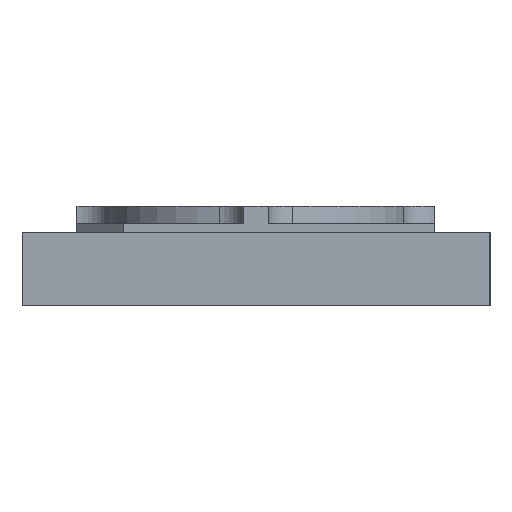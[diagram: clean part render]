
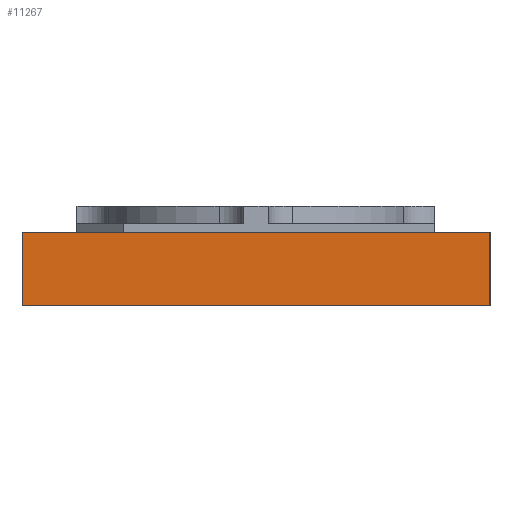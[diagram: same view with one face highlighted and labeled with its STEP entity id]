
A CAD part, front view. The second image highlights one B-rep face of the part: STEP entity #11267.
In plain terms, the highlighted planar face has unit normal (0, -1, 0) as drawn and (-1, 0, 0) by its records, which use the part's own axes.
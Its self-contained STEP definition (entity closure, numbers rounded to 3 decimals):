
#878 = ORIENTED_EDGE ( 'NONE', *, *, #4872, .T. ) ;
#3023 = VECTOR ( 'NONE', #18999, 1000. ) ;
#3314 = CARTESIAN_POINT ( 'NONE',  ( 25.814, 45.814, 0. ) ) ;
#3641 = LINE ( 'NONE', #12277, #10733 ) ;
#4408 = CARTESIAN_POINT ( 'NONE',  ( 25.814, 45.814, -3.125 ) ) ;
#4872 = EDGE_CURVE ( 'NONE', #15469, #6658, #17351, .T. ) ;
#5885 = CARTESIAN_POINT ( 'NONE',  ( 25.814, 0., -3.125 ) ) ;
#6114 = CARTESIAN_POINT ( 'NONE',  ( 25.814, 25.82, -3.125 ) ) ;
#6418 = EDGE_CURVE ( 'NONE', #15469, #9775, #3641, .T. ) ;
#6658 = VERTEX_POINT ( 'NONE', #9210 ) ;
#6839 = AXIS2_PLACEMENT_3D ( 'NONE', #5885, #28503, #8126 ) ;
#7230 = FACE_OUTER_BOUND ( 'NONE', #26328, .T. ) ;
#8126 = DIRECTION ( 'NONE',  ( 0., 1., 0. ) ) ;
#9210 = CARTESIAN_POINT ( 'NONE',  ( 25.814, 25.82, 0. ) ) ;
#9395 = ORIENTED_EDGE ( 'NONE', *, *, #21851, .T. ) ;
#9775 = VERTEX_POINT ( 'NONE', #4408 ) ;
#10017 = PLANE ( 'NONE',  #6839 ) ;
#10368 = VECTOR ( 'NONE', #25576, 1000. ) ;
#10733 = VECTOR ( 'NONE', #14562, 1000. ) ;
#11072 = LINE ( 'NONE', #13721, #10368 ) ;
#11267 = ADVANCED_FACE ( 'NONE', ( #7230 ), #10017, .F. ) ;
#12277 = CARTESIAN_POINT ( 'NONE',  ( 25.814, 0., -3.125 ) ) ;
#13721 = CARTESIAN_POINT ( 'NONE',  ( 25.814, 0., 0. ) ) ;
#13910 = LINE ( 'NONE', #16865, #26218 ) ;
#14145 = DIRECTION ( 'NONE',  ( 0., 0., 1. ) ) ;
#14562 = DIRECTION ( 'NONE',  ( 0., 1., 0. ) ) ;
#15109 = ORIENTED_EDGE ( 'NONE', *, *, #22692, .F. ) ;
#15469 = VERTEX_POINT ( 'NONE', #6114 ) ;
#15922 = VERTEX_POINT ( 'NONE', #3314 ) ;
#16865 = CARTESIAN_POINT ( 'NONE',  ( 25.814, 45.814, -3.125 ) ) ;
#17351 = LINE ( 'NONE', #21576, #3023 ) ;
#18999 = DIRECTION ( 'NONE',  ( 0., 0., 1. ) ) ;
#21576 = CARTESIAN_POINT ( 'NONE',  ( 25.814, 25.82, -3.125 ) ) ;
#21851 = EDGE_CURVE ( 'NONE', #6658, #15922, #11072, .T. ) ;
#22692 = EDGE_CURVE ( 'NONE', #9775, #15922, #13910, .T. ) ;
#25576 = DIRECTION ( 'NONE',  ( 0., 1., 0. ) ) ;
#26218 = VECTOR ( 'NONE', #14145, 1000. ) ;
#26328 = EDGE_LOOP ( 'NONE', ( #9395, #15109, #27621, #878 ) ) ;
#27621 = ORIENTED_EDGE ( 'NONE', *, *, #6418, .F. ) ;
#28503 = DIRECTION ( 'NONE',  ( 1., 0., 0. ) ) ;
